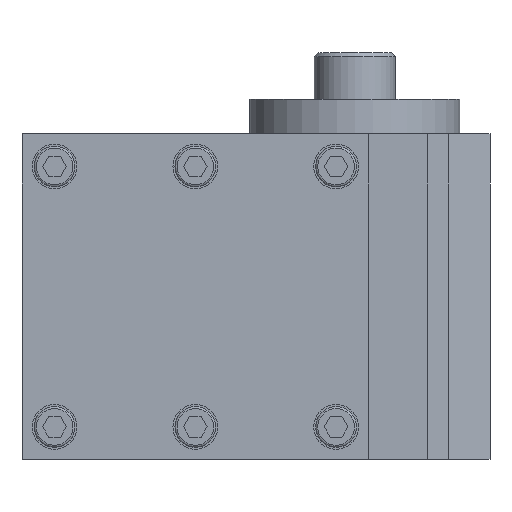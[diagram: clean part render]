
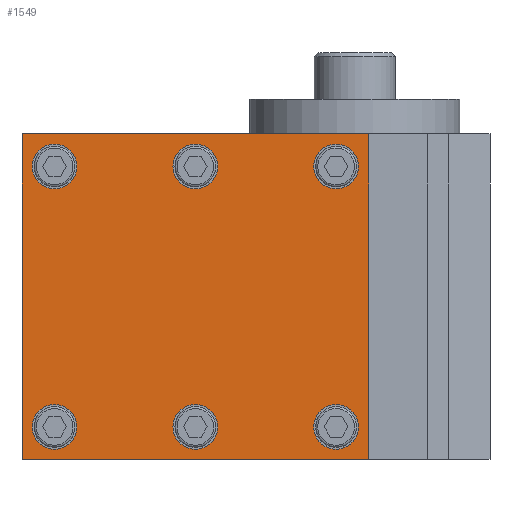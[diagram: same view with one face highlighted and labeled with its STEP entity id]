
A CAD part, left-side view. The second image highlights one B-rep face of the part: STEP entity #1549.
In plain terms, the highlighted planar face has unit normal (-1, 0, 0).
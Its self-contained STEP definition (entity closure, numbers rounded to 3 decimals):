
#397=PLANE('',#9736);
#970=FACE_BOUND('',#2777,.T.);
#971=FACE_BOUND('',#2778,.T.);
#972=FACE_BOUND('',#2779,.T.);
#973=FACE_BOUND('',#2780,.T.);
#974=FACE_BOUND('',#2781,.T.);
#975=FACE_BOUND('',#2782,.T.);
#976=FACE_BOUND('',#2783,.T.);
#1549=ADVANCED_FACE('',(#970,#971,#972,#973,#974,#975,#976),#397,.F.);
#2777=EDGE_LOOP('',(#4833));
#2778=EDGE_LOOP('',(#4834));
#2779=EDGE_LOOP('',(#4835));
#2780=EDGE_LOOP('',(#4836));
#2781=EDGE_LOOP('',(#4837));
#2782=EDGE_LOOP('',(#4838));
#2783=EDGE_LOOP('',(#4839,#4840,#4841,#4842));
#3519=CIRCLE('',#9730,5.5);
#3520=CIRCLE('',#9731,5.5);
#3521=CIRCLE('',#9732,5.5);
#3522=CIRCLE('',#9733,5.5);
#3523=CIRCLE('',#9734,5.5);
#3524=CIRCLE('',#9735,5.5);
#4833=ORIENTED_EDGE('',*,*,#7326,.T.);
#4834=ORIENTED_EDGE('',*,*,#7327,.T.);
#4835=ORIENTED_EDGE('',*,*,#7328,.T.);
#4836=ORIENTED_EDGE('',*,*,#7329,.T.);
#4837=ORIENTED_EDGE('',*,*,#7330,.T.);
#4838=ORIENTED_EDGE('',*,*,#7331,.T.);
#4839=ORIENTED_EDGE('',*,*,#7332,.T.);
#4840=ORIENTED_EDGE('',*,*,#7333,.F.);
#4841=ORIENTED_EDGE('',*,*,#7334,.F.);
#4842=ORIENTED_EDGE('',*,*,#7335,.T.);
#6341=VERTEX_POINT('',#31834);
#6342=VERTEX_POINT('',#31836);
#6343=VERTEX_POINT('',#31838);
#6344=VERTEX_POINT('',#31840);
#6345=VERTEX_POINT('',#31842);
#6346=VERTEX_POINT('',#31844);
#6347=VERTEX_POINT('',#31846);
#6348=VERTEX_POINT('',#31847);
#6349=VERTEX_POINT('',#31849);
#6350=VERTEX_POINT('',#31851);
#7326=EDGE_CURVE('',#6341,#6341,#3519,.T.);
#7327=EDGE_CURVE('',#6342,#6342,#3520,.T.);
#7328=EDGE_CURVE('',#6343,#6343,#3521,.T.);
#7329=EDGE_CURVE('',#6344,#6344,#3522,.T.);
#7330=EDGE_CURVE('',#6345,#6345,#3523,.T.);
#7331=EDGE_CURVE('',#6346,#6346,#3524,.T.);
#7332=EDGE_CURVE('',#6347,#6348,#8157,.T.);
#7333=EDGE_CURVE('',#6349,#6348,#8158,.T.);
#7334=EDGE_CURVE('',#6350,#6349,#8159,.T.);
#7335=EDGE_CURVE('',#6350,#6347,#8160,.T.);
#8157=LINE('',#31845,#8844);
#8158=LINE('',#31848,#8845);
#8159=LINE('',#31850,#8846);
#8160=LINE('',#31852,#8847);
#8844=VECTOR('',#11502,1.);
#8845=VECTOR('',#11503,1.);
#8846=VECTOR('',#11504,1.);
#8847=VECTOR('',#11505,1.);
#9730=AXIS2_PLACEMENT_3D('',#31833,#11490,#11491);
#9731=AXIS2_PLACEMENT_3D('',#31835,#11492,#11493);
#9732=AXIS2_PLACEMENT_3D('',#31837,#11494,#11495);
#9733=AXIS2_PLACEMENT_3D('',#31839,#11496,#11497);
#9734=AXIS2_PLACEMENT_3D('',#31841,#11498,#11499);
#9735=AXIS2_PLACEMENT_3D('',#31843,#11500,#11501);
#9736=AXIS2_PLACEMENT_3D('',#31853,#11506,#11507);
#11490=DIRECTION('',(1.,0.,0.));
#11491=DIRECTION('',(0.,-1.,0.));
#11492=DIRECTION('',(1.,0.,0.));
#11493=DIRECTION('',(0.,-1.,0.));
#11494=DIRECTION('',(1.,0.,0.));
#11495=DIRECTION('',(0.,-1.,0.));
#11496=DIRECTION('',(1.,0.,0.));
#11497=DIRECTION('',(0.,-1.,0.));
#11498=DIRECTION('',(1.,0.,0.));
#11499=DIRECTION('',(0.,-1.,0.));
#11500=DIRECTION('',(1.,0.,0.));
#11501=DIRECTION('',(0.,-1.,0.));
#11502=DIRECTION('',(0.,-1.,0.));
#11503=DIRECTION('',(0.,0.,-1.));
#11504=DIRECTION('',(0.,-1.,0.));
#11505=DIRECTION('',(0.,0.,-1.));
#11506=DIRECTION('',(1.,0.,0.));
#11507=DIRECTION('',(0.,1.,0.));
#31833=CARTESIAN_POINT('',(-92.,15.092,8.));
#31834=CARTESIAN_POINT('',(-92.,9.592,8.));
#31835=CARTESIAN_POINT('',(-92.,15.092,72.));
#31836=CARTESIAN_POINT('',(-92.,9.592,72.));
#31837=CARTESIAN_POINT('',(-92.,-19.5,8.));
#31838=CARTESIAN_POINT('',(-92.,-25.,8.));
#31839=CARTESIAN_POINT('',(-92.,-19.5,72.));
#31840=CARTESIAN_POINT('',(-92.,-25.,72.));
#31841=CARTESIAN_POINT('',(-92.,49.683,72.));
#31842=CARTESIAN_POINT('',(-92.,44.183,72.));
#31843=CARTESIAN_POINT('',(-92.,49.683,8.));
#31844=CARTESIAN_POINT('',(-92.,44.183,8.));
#31845=CARTESIAN_POINT('',(-92.,57.683,0.));
#31846=CARTESIAN_POINT('',(-92.,57.683,0.));
#31847=CARTESIAN_POINT('',(-92.,-27.5,0.));
#31848=CARTESIAN_POINT('',(-92.,-27.5,80.));
#31849=CARTESIAN_POINT('',(-92.,-27.5,80.));
#31850=CARTESIAN_POINT('',(-92.,57.683,80.));
#31851=CARTESIAN_POINT('',(-92.,57.683,80.));
#31852=CARTESIAN_POINT('',(-92.,57.683,80.));
#31853=CARTESIAN_POINT('',(-92.,57.683,80.));
